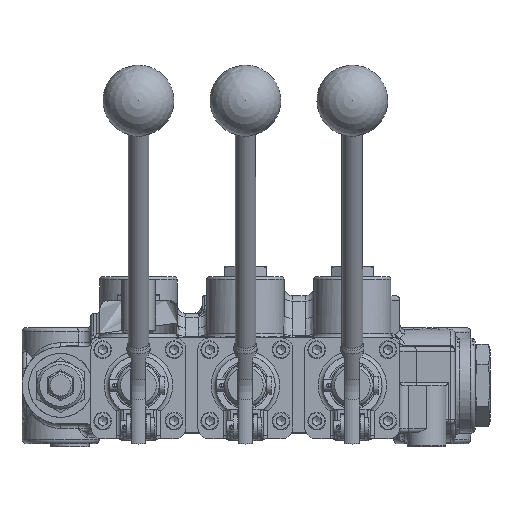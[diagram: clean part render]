
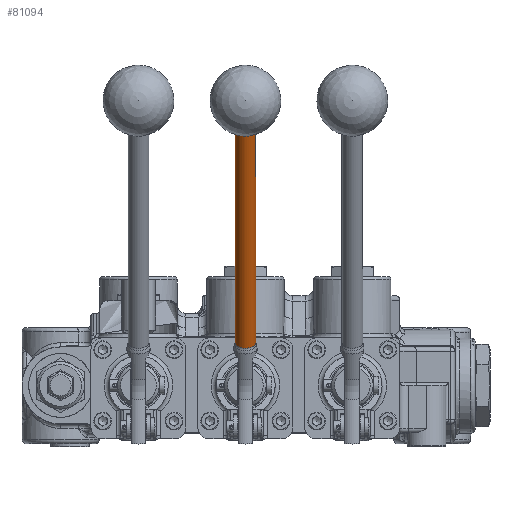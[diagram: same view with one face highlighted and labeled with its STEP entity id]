
A CAD part, top view. The second image highlights one B-rep face of the part: STEP entity #81094.
In plain terms, the highlighted cylindrical face has radius 5.556 mm (diameter 11.113 mm), a full revolution.
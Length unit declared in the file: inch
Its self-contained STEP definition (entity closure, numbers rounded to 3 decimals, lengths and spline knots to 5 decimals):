
#81067=CARTESIAN_POINT('',(2.25,5.83861,4.8742));
#81068=DIRECTION('',(0.,-0.865,-0.502));
#81069=DIRECTION('',(0.,-0.502,0.865));
#81070=AXIS2_PLACEMENT_3D('',#81067,#81068,#81069);
#81071=CYLINDRICAL_SURFACE('',#81070,0.21875);
#81072=CARTESIAN_POINT('',(2.25,5.51589,4.43409));
#81073=VERTEX_POINT('',#81072);
#81074=CARTESIAN_POINT('',(2.25,5.40612,4.6233));
#81075=DIRECTION('',(0.,-0.865,-0.502));
#81076=DIRECTION('',(0.,-0.502,0.865));
#81077=AXIS2_PLACEMENT_3D('',#81074,#81075,#81076);
#81078=CIRCLE('',#81077,0.21875);
#81079=EDGE_CURVE('',#81073,#81073,#81078,.T.);
#81080=ORIENTED_EDGE('',*,*,#81079,.T.);
#81081=EDGE_LOOP('',(#81080));
#81082=FACE_OUTER_BOUND('',#81081,.T.);
#81083=CARTESIAN_POINT('',(2.25,0.99886,1.81358));
#81084=VERTEX_POINT('',#81083);
#81085=CARTESIAN_POINT('',(2.25,0.88909,2.0028));
#81086=DIRECTION('',(0.,-0.865,-0.502));
#81087=DIRECTION('',(0.,-0.502,0.865));
#81088=AXIS2_PLACEMENT_3D('',#81085,#81086,#81087);
#81089=CIRCLE('',#81088,0.21875);
#81090=EDGE_CURVE('',#81084,#81084,#81089,.T.);
#81091=ORIENTED_EDGE('',*,*,#81090,.F.);
#81092=EDGE_LOOP('',(#81091));
#81093=FACE_BOUND('',#81092,.T.);
#81094=ADVANCED_FACE('',(#81082,#81093),#81071,.T.);
